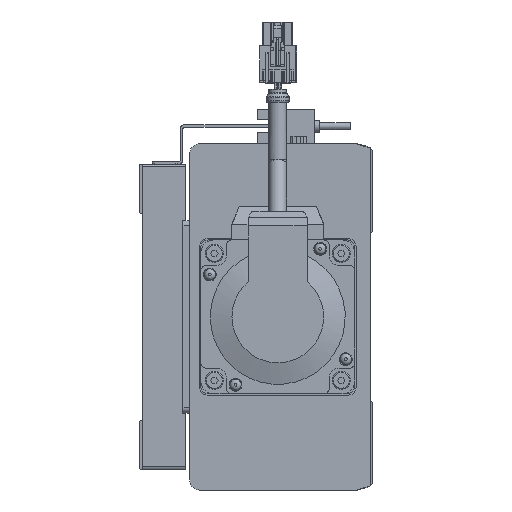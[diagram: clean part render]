
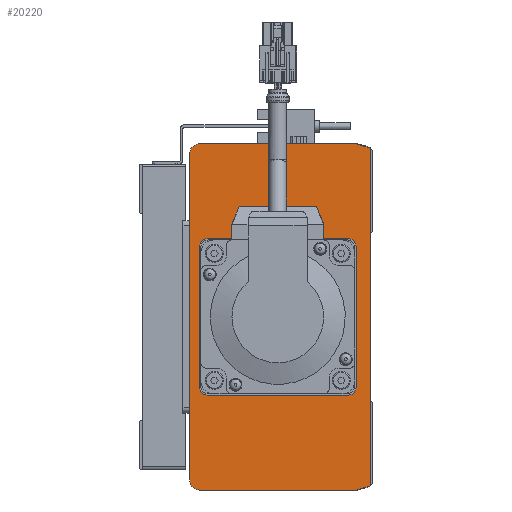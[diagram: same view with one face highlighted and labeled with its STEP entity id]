
A CAD part, left-side view. The second image highlights one B-rep face of the part: STEP entity #20220.
In plain terms, the highlighted planar face has unit normal (-1, 0, 0) as drawn and (0, 0, 1) by its records, which use the part's own axes.
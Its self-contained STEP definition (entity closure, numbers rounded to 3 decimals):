
#942=CIRCLE('',#21953,4.);
#943=CIRCLE('',#21957,3.);
#945=CIRCLE('',#21961,3.);
#947=CIRCLE('',#21965,3.);
#949=CIRCLE('',#21969,3.);
#951=CIRCLE('',#21972,4.);
#5748=ORIENTED_EDGE('',*,*,#9027,.F.);
#5749=ORIENTED_EDGE('',*,*,#9031,.F.);
#5750=ORIENTED_EDGE('',*,*,#9034,.F.);
#5751=ORIENTED_EDGE('',*,*,#9037,.F.);
#5752=ORIENTED_EDGE('',*,*,#9040,.F.);
#5753=ORIENTED_EDGE('',*,*,#9043,.F.);
#5754=ORIENTED_EDGE('',*,*,#9046,.F.);
#5755=ORIENTED_EDGE('',*,*,#9049,.F.);
#5756=ORIENTED_EDGE('',*,*,#8972,.T.);
#5757=ORIENTED_EDGE('',*,*,#8983,.T.);
#5758=ORIENTED_EDGE('',*,*,#8986,.T.);
#5759=ORIENTED_EDGE('',*,*,#8996,.T.);
#5760=ORIENTED_EDGE('',*,*,#9005,.T.);
#5761=ORIENTED_EDGE('',*,*,#9015,.T.);
#5762=ORIENTED_EDGE('',*,*,#9021,.T.);
#5763=ORIENTED_EDGE('',*,*,#9051,.T.);
#8972=EDGE_CURVE('',#11065,#11066,#13172,.T.);
#8983=EDGE_CURVE('',#11066,#11075,#13183,.T.);
#8986=EDGE_CURVE('',#11075,#11077,#13186,.T.);
#8996=EDGE_CURVE('',#11077,#11085,#13196,.T.);
#9005=EDGE_CURVE('',#11085,#11091,#13205,.T.);
#9015=EDGE_CURVE('',#11091,#11099,#942,.T.);
#9021=EDGE_CURVE('',#11099,#11104,#13220,.T.);
#9027=EDGE_CURVE('',#11107,#11108,#13226,.T.);
#9031=EDGE_CURVE('',#11111,#11107,#943,.T.);
#9034=EDGE_CURVE('',#11113,#11111,#13231,.T.);
#9037=EDGE_CURVE('',#11115,#11113,#945,.T.);
#9040=EDGE_CURVE('',#11117,#11115,#13235,.T.);
#9043=EDGE_CURVE('',#11119,#11117,#947,.T.);
#9046=EDGE_CURVE('',#11121,#11119,#13239,.T.);
#9049=EDGE_CURVE('',#11108,#11121,#949,.T.);
#9051=EDGE_CURVE('',#11104,#11065,#951,.T.);
#11065=VERTEX_POINT('',#33007);
#11066=VERTEX_POINT('',#33008);
#11075=VERTEX_POINT('',#33029);
#11077=VERTEX_POINT('',#33035);
#11085=VERTEX_POINT('',#33054);
#11091=VERTEX_POINT('',#33070);
#11099=VERTEX_POINT('',#33089);
#11104=VERTEX_POINT('',#33100);
#11107=VERTEX_POINT('',#33111);
#11108=VERTEX_POINT('',#33112);
#11111=VERTEX_POINT('',#33120);
#11113=VERTEX_POINT('',#33126);
#11115=VERTEX_POINT('',#33132);
#11117=VERTEX_POINT('',#33138);
#11119=VERTEX_POINT('',#33144);
#11121=VERTEX_POINT('',#33150);
#13172=LINE('',#33006,#15281);
#13183=LINE('',#33028,#15292);
#13186=LINE('',#33034,#15295);
#13196=LINE('',#33053,#15305);
#13205=LINE('',#33069,#15314);
#13220=LINE('',#33101,#15329);
#13226=LINE('',#33110,#15335);
#13231=LINE('',#33125,#15340);
#13235=LINE('',#33137,#15344);
#13239=LINE('',#33149,#15348);
#15281=VECTOR('',#27001,1000.);
#15292=VECTOR('',#27014,1000.);
#15295=VECTOR('',#27019,1000.);
#15305=VECTOR('',#27031,1000.);
#15314=VECTOR('',#27042,1000.);
#15329=VECTOR('',#27063,1000.);
#15335=VECTOR('',#27071,1000.);
#15340=VECTOR('',#27084,1000.);
#15344=VECTOR('',#27096,1000.);
#15348=VECTOR('',#27108,1000.);
#16746=EDGE_LOOP('',(#5748,#5749,#5750,#5751,#5752,#5753,#5754,#5755));
#16747=EDGE_LOOP('',(#5756,#5757,#5758,#5759,#5760,#5761,#5762,#5763));
#18205=FACE_BOUND('',#16746,.T.);
#18206=FACE_BOUND('',#16747,.T.);
#19174=PLANE('',#21980);
#20220=ADVANCED_FACE('',(#18205,#18206),#19174,.T.);
#21953=AXIS2_PLACEMENT_3D('',#33088,#27054,#27055);
#21957=AXIS2_PLACEMENT_3D('',#33119,#27077,#27078);
#21961=AXIS2_PLACEMENT_3D('',#33131,#27089,#27090);
#21965=AXIS2_PLACEMENT_3D('',#33143,#27101,#27102);
#21969=AXIS2_PLACEMENT_3D('',#33155,#27113,#27114);
#21972=AXIS2_PLACEMENT_3D('',#33158,#27119,#27120);
#21980=AXIS2_PLACEMENT_3D('',#33178,#27139,#27140);
#27001=DIRECTION('',(0.,-1.,0.));
#27014=DIRECTION('',(0.3,-0.954,0.));
#27019=DIRECTION('',(1.,0.,0.));
#27031=DIRECTION('',(0.3,0.954,0.));
#27042=DIRECTION('',(0.,1.,0.));
#27054=DIRECTION('',(0.,0.,1.));
#27055=DIRECTION('',(1.,0.,0.));
#27063=DIRECTION('',(-1.,0.,0.));
#27071=DIRECTION('',(0.,-1.,0.));
#27077=DIRECTION('',(0.,0.,1.));
#27078=DIRECTION('',(1.,0.,0.));
#27084=DIRECTION('',(-1.,0.,0.));
#27089=DIRECTION('',(0.,0.,1.));
#27090=DIRECTION('',(1.,0.,0.));
#27096=DIRECTION('',(0.,1.,0.));
#27101=DIRECTION('',(0.,0.,1.));
#27102=DIRECTION('',(1.,0.,0.));
#27108=DIRECTION('',(1.,0.,0.));
#27113=DIRECTION('',(0.,0.,1.));
#27114=DIRECTION('',(1.,0.,0.));
#27119=DIRECTION('',(0.,0.,1.));
#27120=DIRECTION('',(1.,0.,0.));
#27139=DIRECTION('',(0.,0.,1.));
#27140=DIRECTION('',(1.,0.,0.));
#33006=CARTESIAN_POINT('',(-67.5,67.4,0.));
#33007=CARTESIAN_POINT('',(-67.5,67.4,0.));
#33008=CARTESIAN_POINT('',(-67.5,6.241,0.));
#33028=CARTESIAN_POINT('',(-67.5,6.241,0.));
#33029=CARTESIAN_POINT('',(-65.854,1.,0.));
#33034=CARTESIAN_POINT('',(-65.854,1.,0.));
#33035=CARTESIAN_POINT('',(65.854,1.,0.));
#33053=CARTESIAN_POINT('',(65.854,1.,0.));
#33054=CARTESIAN_POINT('',(67.5,6.241,0.));
#33069=CARTESIAN_POINT('',(67.5,6.241,0.));
#33070=CARTESIAN_POINT('',(67.5,67.4,0.));
#33088=CARTESIAN_POINT('',(63.5,67.4,0.));
#33089=CARTESIAN_POINT('',(63.5,71.4,0.));
#33100=CARTESIAN_POINT('',(-63.5,71.4,0.));
#33101=CARTESIAN_POINT('',(63.5,71.4,0.));
#33110=CARTESIAN_POINT('',(-30.5,64.5,0.));
#33111=CARTESIAN_POINT('',(-30.5,64.5,0.));
#33112=CARTESIAN_POINT('',(-30.5,9.5,0.));
#33119=CARTESIAN_POINT('',(-27.5,64.5,0.));
#33120=CARTESIAN_POINT('',(-27.5,67.5,0.));
#33125=CARTESIAN_POINT('',(27.5,67.5,0.));
#33126=CARTESIAN_POINT('',(27.5,67.5,0.));
#33131=CARTESIAN_POINT('',(27.5,64.5,0.));
#33132=CARTESIAN_POINT('',(30.5,64.5,0.));
#33137=CARTESIAN_POINT('',(30.5,9.5,0.));
#33138=CARTESIAN_POINT('',(30.5,9.5,0.));
#33143=CARTESIAN_POINT('',(27.5,9.5,0.));
#33144=CARTESIAN_POINT('',(27.5,6.5,0.));
#33149=CARTESIAN_POINT('',(-27.5,6.5,0.));
#33150=CARTESIAN_POINT('',(-27.5,6.5,0.));
#33155=CARTESIAN_POINT('',(-27.5,9.5,0.));
#33158=CARTESIAN_POINT('',(-63.5,67.4,0.));
#33178=CARTESIAN_POINT('',(63.5,67.4,0.));
